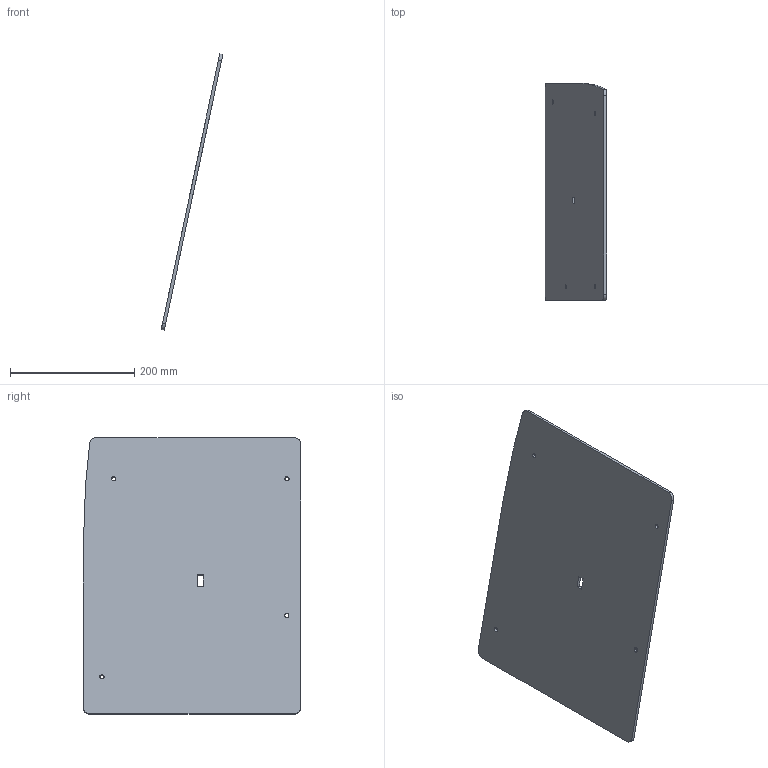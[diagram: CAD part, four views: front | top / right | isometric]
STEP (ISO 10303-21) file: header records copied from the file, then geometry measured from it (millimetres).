
FILE_DESCRIPTION(('CATIA V5 STEP Exchange'),'2;1');
FILE_NAME('E:\福田轻卡项目\01-M4中期改款项目\8、2D\基础款2D\附件2D\新建文件夹\SLT0011198--小背固定背板总成\SLT0011998.stp','2023-09-14T10:17:02+00:00',('none'),('none'),'CATIA Version 5 Release 20 GA (IN-10)','CATIA V5 STEP AP214','none');
FILE_SCHEMA(('AUTOMOTIVE_DESIGN { 1 0 10303 214 1 1 1 1 }'));
Length unit declared in the file: millimetre
Products named in the file (1): SLT0011199
Bounding box: 99.28 x 350.01 x 445.12 mm (x, y, z)
Volume: 789906 mm3; surface area: 324403.4 mm2
Topology: 1 solids, 1 shells, 26 faces, 72 edges, 48 vertices
Faces by surface type: cylinder 12, plane 11, bspline 3
Entity records: 1137 total; most frequent: CARTESIAN_POINT 551, ORIENTED_EDGE 144, EDGE_CURVE 72, DIRECTION 60, B_SPLINE_CURVE_WITH_KNOTS 52, VERTEX_POINT 48, EDGE_LOOP 36, ADVANCED_FACE 26
